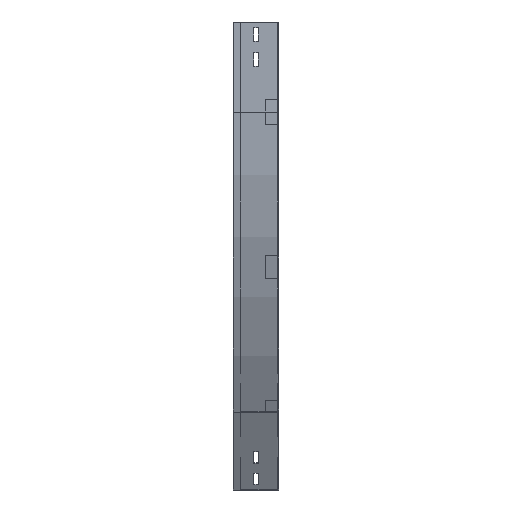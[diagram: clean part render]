
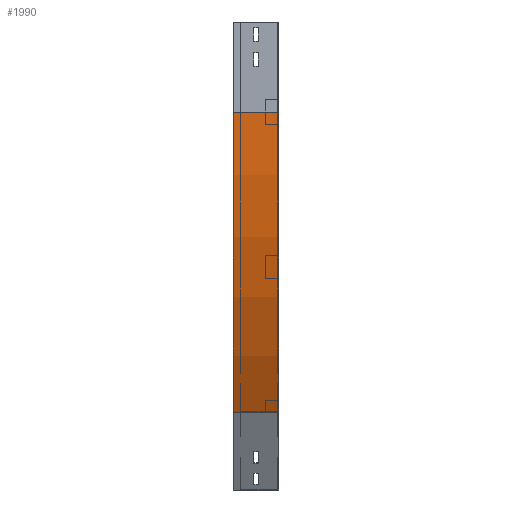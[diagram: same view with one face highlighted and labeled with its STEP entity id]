
A CAD part, left-side view. The second image highlights one B-rep face of the part: STEP entity #1990.
In plain terms, the highlighted cylindrical face has radius 1000 mm (diameter 2000 mm), a partial arc.
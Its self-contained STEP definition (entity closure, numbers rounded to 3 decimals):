
#7 = CARTESIAN_POINT ( 'NONE',  ( 133.975, 75., -650. ) ) ;
#73 = EDGE_CURVE ( 'NONE', #709, #876, #2481, .T. ) ;
#397 = CARTESIAN_POINT ( 'NONE',  ( 0., 0., -150. ) ) ;
#514 = CARTESIAN_POINT ( 'NONE',  ( 1000., 75., -150. ) ) ;
#604 = EDGE_CURVE ( 'NONE', #702, #709, #2155, .T. ) ;
#702 = VERTEX_POINT ( 'NONE', #1766 ) ;
#709 = VERTEX_POINT ( 'NONE', #7 ) ;
#716 = VECTOR ( 'NONE', #2104, 1000. ) ;
#755 = DIRECTION ( 'NONE',  ( 0., -1., 0. ) ) ;
#876 = VERTEX_POINT ( 'NONE', #1020 ) ;
#923 = FACE_OUTER_BOUND ( 'NONE', #1324, .T. ) ;
#974 = AXIS2_PLACEMENT_3D ( 'NONE', #1882, #3683, #1030 ) ;
#1020 = CARTESIAN_POINT ( 'NONE',  ( 133.975, 0., -650. ) ) ;
#1030 = DIRECTION ( 'NONE',  ( -1., 0., 0. ) ) ;
#1324 = EDGE_LOOP ( 'NONE', ( #3164, #2660, #2281, #1758 ) ) ;
#1342 = AXIS2_PLACEMENT_3D ( 'NONE', #2318, #2355, #3255 ) ;
#1436 = CYLINDRICAL_SURFACE ( 'NONE', #1342, 1000. ) ;
#1461 = EDGE_CURVE ( 'NONE', #702, #2383, #3572, .T. ) ;
#1670 = AXIS2_PLACEMENT_3D ( 'NONE', #514, #755, #3783 ) ;
#1758 = ORIENTED_EDGE ( 'NONE', *, *, #73, .T. ) ;
#1766 = CARTESIAN_POINT ( 'NONE',  ( 0., 75., -150. ) ) ;
#1882 = CARTESIAN_POINT ( 'NONE',  ( 1000., 0., -150. ) ) ;
#1907 = VECTOR ( 'NONE', #3318, 1000. ) ;
#1990 = ADVANCED_FACE ( 'NONE', ( #923 ), #1436, .T. ) ;
#2104 = DIRECTION ( 'NONE',  ( 0., -1., 0. ) ) ;
#2155 = CIRCLE ( 'NONE', #1670, 1000. ) ;
#2281 = ORIENTED_EDGE ( 'NONE', *, *, #604, .T. ) ;
#2318 = CARTESIAN_POINT ( 'NONE',  ( 1000., 0., -150. ) ) ;
#2355 = DIRECTION ( 'NONE',  ( 0., -1., 0. ) ) ;
#2383 = VERTEX_POINT ( 'NONE', #3113 ) ;
#2481 = LINE ( 'NONE', #3343, #1907 ) ;
#2641 = CIRCLE ( 'NONE', #974, 1000. ) ;
#2660 = ORIENTED_EDGE ( 'NONE', *, *, #1461, .F. ) ;
#2871 = EDGE_CURVE ( 'NONE', #2383, #876, #2641, .T. ) ;
#3113 = CARTESIAN_POINT ( 'NONE',  ( 0., 0., -150. ) ) ;
#3164 = ORIENTED_EDGE ( 'NONE', *, *, #2871, .F. ) ;
#3255 = DIRECTION ( 'NONE',  ( 0., 0., -1. ) ) ;
#3318 = DIRECTION ( 'NONE',  ( 0., -1., 0. ) ) ;
#3343 = CARTESIAN_POINT ( 'NONE',  ( 133.975, 0., -650. ) ) ;
#3572 = LINE ( 'NONE', #397, #716 ) ;
#3683 = DIRECTION ( 'NONE',  ( 0., -1., 0. ) ) ;
#3783 = DIRECTION ( 'NONE',  ( -1., 0., 0. ) ) ;
